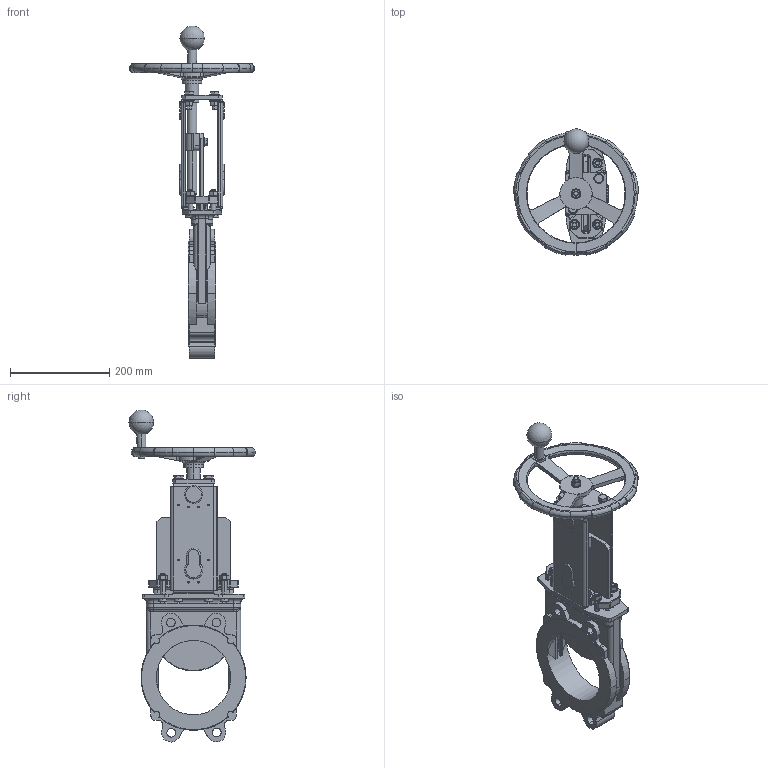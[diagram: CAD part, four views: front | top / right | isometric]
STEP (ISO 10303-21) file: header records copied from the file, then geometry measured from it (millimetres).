
FILE_DESCRIPTION(('STEP AP203'),'1');
FILE_NAME('G:/KONSTRUK/3-d block för CD/WB VALVE/HAND WHEEL/150/WB11 DN150 HW.stp','2012-11-30T13:01:47',(' '),(' '),'Spatial InterOp 3D',' ',' ');
FILE_SCHEMA(('CONFIG_CONTROL_DESIGN'));
Length unit declared in the file: millimetre
Products named in the file (7): 1; 2; 3; 4; 5; 6; 7
Bounding box: 252 x 254.58 x 669.67 mm (x, y, z)
Volume: 2808771.4 mm3; surface area: 537300.6 mm2
Topology: 7 solids, 12 shells, 1623 faces, 4026 edges, 2493 vertices
Faces by surface type: cylinder 583, plane 579, cone 261, torus 148, bspline 34, sphere 18
Entity records: 60494 total; most frequent: CARTESIAN_POINT 21321, DIRECTION 8434, ORIENTED_EDGE 8004, EDGE_CURVE 4002, AXIS2_PLACEMENT_3D 3382, VERTEX_POINT 2493, EDGE_LOOP 1809, CIRCLE 1765
